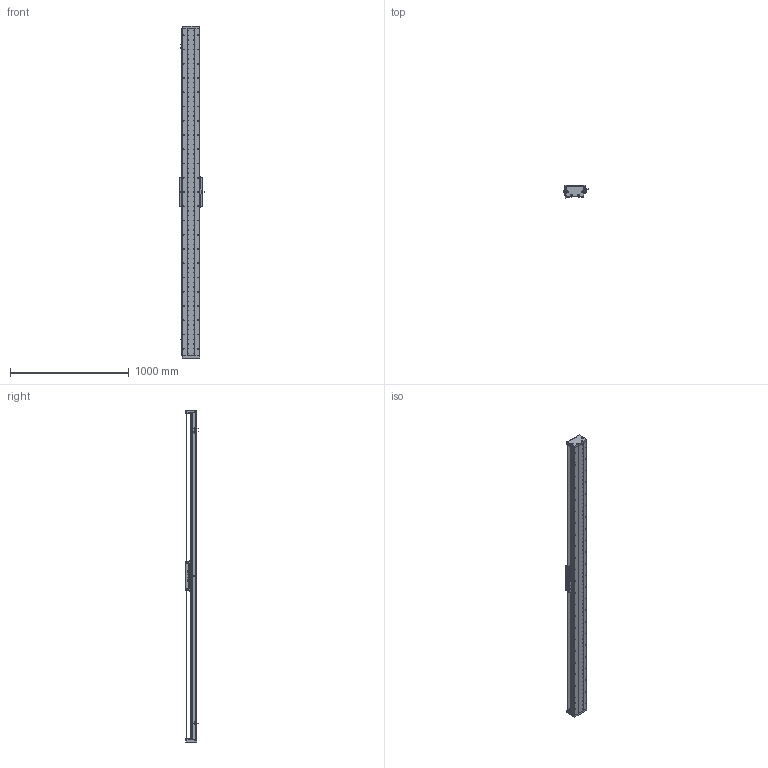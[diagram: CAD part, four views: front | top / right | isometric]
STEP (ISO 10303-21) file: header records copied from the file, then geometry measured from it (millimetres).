
FILE_DESCRIPTION (( 'STEP AP203' ), '1' );
FILE_NAME ('DA-C145-C3-T2460-C010-0.2 眻盄萇儂.STEP', '2025-08-14T01:33:28', ( '' ), ( '' ), 'SwSTEP 2.0', 'SolidWorks 2019', '' );
FILE_SCHEMA (( 'CONFIG_CONTROL_DESIGN' ));
Length unit declared in the file: millimetre
Products named in the file (32): DA-C145-C3-T2460-C010-0.2 眻盄萇儂; 葩璃 CKMA01-W060-TRL^DA-C145-C3-T-C010-0.2; 复件 DA145-GYP-00 光电感应片^DA-C145-C3-T-C010-0.2; 复件 半圆头内六角螺钉 M3×6^CU145-W 滚珠滑台; CU145-W-00 珨极趙賑雄怢啣; 复件 DA145 钢带^复件 CU145 钢带组件_DA-C145-C3-T-C010-0.2; 复件 DA145-C3-YB-B-00 压板B^CU145-W 滚珠滑台; 葩璃 鞠褒情蹟譫 M3^DA-C145-C3-T-C010-0.2; 66245-CU145-HT-W-00 賑雄怢啣(3D芞祧)(00); CU145-W 幗紩賑怢; 葩璃 DA145-C3-DP-A-00 菜えA^CU145-W 幗紩賑怢; 复件 DA95-MFP-01 密封片^CU145-W 滚珠滑台; 复件 内六角平端紧定螺钉 GB.T77-2000 M5×10^CU145-W 滚珠滑台; 葩璃 DA95-HXJ-00 遣喳砎蝶^DA-C145-C3-T-C010-0.2; 葩璃 CU145 詩湍郪璃^DA-C145-C3-T-C010-0.2; 复件 DA145-C3-DK-00 挡块^CU145-W 滚珠滑台; 复件 DA95-HK-GT-00 滑块钢轨^CU145-W-00 一体化滑动台板; 复件 DA146 钢带拉块^复件 CU145 钢带组件_DA-C145-C3-T-C010-0.2; IU-CU145-L-00 菁釱(L2760); IU-CU145-L 菁釱絳寢; 葩璃 DA95-GT-T-00^IU-CU145-L 菁釱絳寢; TAY01-M8; 复件 DA145-DG 钢带端盖^复件 CU145 钢带组件_DA-C145-C3-T-C010-0.2; 复件 DA146 钢带垫块^复件 CU145 钢带组件_DA-C145-C3-T-C010-0.2; 葩璃 CKM03-W060-C1C2-TP-0.2^DA-C145-C3-T-C010-0.2; 葩璃 XD-U-02L 棠掑喜^DA-C145-C3-T-C010-0.2; 复件 DA145-C3-YB-A-00 压板A^CU145-W 滚珠滑台; 葩璃 DMA-010-0.2 黍杅芛^DA-C145-C3-T-C010-0.2; 复件 纯铜油杯 6x6mm^CU145-W 滚珠滑台; 复件 DA95-DB-00  挡板^CU145-W 滚珠滑台; 葩璃 DA145-C3-DP-B-00 菜えB^CU145-W 幗紩賑怢; 葩璃 PM-T45^DA-C145-C3-T-C010-0.2
Assembly tree (103 placements, depth 4):
  DA-C145-C3-T2460-C010-0.2 眻盄萇儂
    IU-CU145-L 菁釱絳寢
      IU-CU145-L-00 菁釱(L2760)
      葩璃 DA95-GT-T-00^IU-CU145-L 菁釱絳寢  x4
    葩璃 CU145 詩湍郪璃^DA-C145-C3-T-C010-0.2
      复件 DA145-DG 钢带端盖^复件 CU145 钢带组件_DA-C145-C3-T-C010-0.2  x2
      复件 DA146 钢带拉块^复件 CU145 钢带组件_DA-C145-C3-T-C010-0.2  x2
      复件 DA146 钢带垫块^复件 CU145 钢带组件_DA-C145-C3-T-C010-0.2  x2
      复件 DA145 钢带^复件 CU145 钢带组件_DA-C145-C3-T-C010-0.2
    CU145-W 幗紩賑怢
      CU145-W-00 珨极趙賑雄怢啣
        66245-CU145-HT-W-00 賑雄怢啣(3D芞祧)(00)
        复件 DA95-HK-GT-00 滑块钢轨^CU145-W-00 一体化滑动台板  x8
      复件 DA95-MFP-01 密封片^CU145-W 滚珠滑台  x8
      复件 DA95-DB-00  挡板^CU145-W 滚珠滑台  x8
      复件 内六角平端紧定螺钉 GB.T77-2000 M5×10^CU145-W 滚珠滑台  x4
      复件 纯铜油杯 6x6mm^CU145-W 滚珠滑台  x4
      复件 半圆头内六角螺钉 M3×6^CU145-W 滚珠滑台  x16
      复件 DA145-C3-DK-00 挡块^CU145-W 滚珠滑台  x4
      葩璃 DA145-C3-DP-B-00 菜えB^CU145-W 幗紩賑怢  x2
      复件 DA145-C3-YB-B-00 压板B^CU145-W 滚珠滑台  x2
      葩璃 DA145-C3-DP-A-00 菜えA^CU145-W 幗紩賑怢  x3
      复件 DA145-C3-YB-A-00 压板A^CU145-W 滚珠滑台  x3
      TAY01-M8  x4
    葩璃 CKMA01-W060-TRL^DA-C145-C3-T-C010-0.2
    葩璃 PM-T45^DA-C145-C3-T-C010-0.2  x3
    葩璃 XD-U-02L 棠掑喜^DA-C145-C3-T-C010-0.2
    葩璃 DA95-HXJ-00 遣喳砎蝶^DA-C145-C3-T-C010-0.2  x4
    复件 DA145-GYP-00 光电感应片^DA-C145-C3-T-C010-0.2
    葩璃 DMA-010-0.2 黍杅芛^DA-C145-C3-T-C010-0.2
    葩璃 CKM03-W060-C1C2-TP-0.2^DA-C145-C3-T-C010-0.2
    葩璃 鞠褒情蹟譫 M3^DA-C145-C3-T-C010-0.2  x8
Bounding box: 203.5 x 108.45 x 2796 mm (x, y, z)
Volume: 13049871.1 mm3; surface area: 4369032.8 mm2
Topology: 99 solids, 131 shells, 4716 faces, 13538 edges, 8490 vertices
Faces by surface type: cylinder 2350, plane 1598, cone 690, torus 74, sphere 4
Entity records: 131628 total; most frequent: CARTESIAN_POINT 39588, ORIENTED_EDGE 18596, DIRECTION 17633, EDGE_CURVE 9298, AXIS2_PLACEMENT_3D 6630, VERTEX_POINT 6029, VECTOR 4373, LINE 4373
